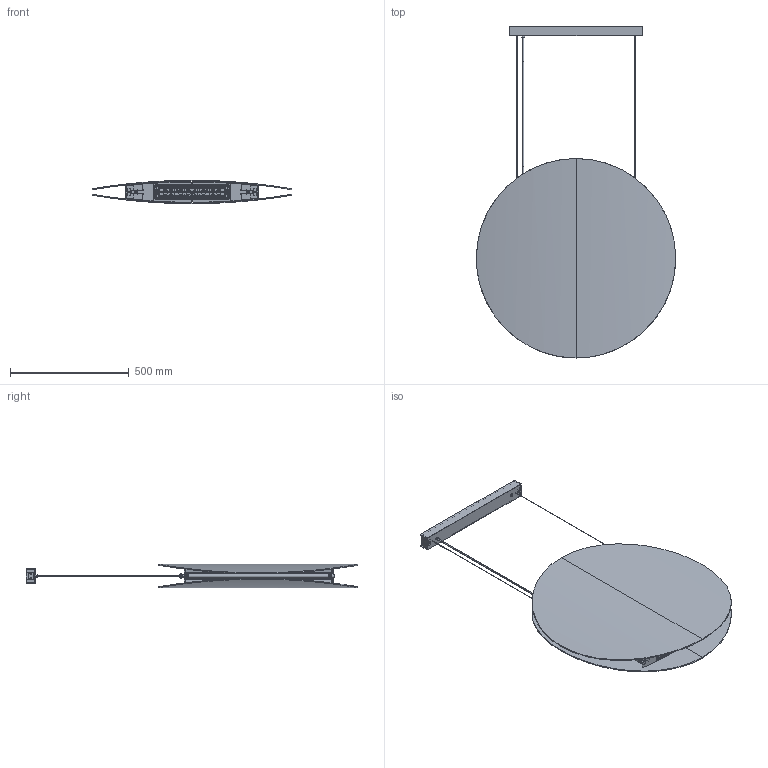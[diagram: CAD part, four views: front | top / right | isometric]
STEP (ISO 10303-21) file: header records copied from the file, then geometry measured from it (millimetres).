
FILE_DESCRIPTION (( 'STEP AP203' ), '1' );
FILE_NAME ('NOREN S-85 DOWN 116502xxyyy .STEP', '2022-08-29T07:52:37', ( '' ), ( '' ), 'SwSTEP 2.0', 'SolidWorks 2019', '' );
FILE_SCHEMA (( 'CONFIG_CONTROL_DESIGN' ));
Length unit declared in the file: millimetre
Products named in the file (33): 000-116-150; 000-918-106; 000-D913-44 NY; 000-116-251; 000-116-156; 000-116-220; 906-023 CABLE^NOREN S-85 DOWN 116502xxyyy ; 000-116-SUB TAPA FINAL DRIVERS; 000-909-099; 000-116-164; 000-D6798J-3.2; 000-909-101; 000-D7982-3.5X9.5N_M3.5X9.5mm; 000-116-252; 000-moss10091852; 000-D6798J-4.3; 000-116-304; 000-SUB116-07; 000-116-244; 000-SUB116-115CH; 000-920-007; NOREN S-85 DOWN 116502xxyyy ; 000-116-254; 000-116-101; 000-116-109; 000-116-283; 000-116-162; 000-920-003; 000-116-256; 000-116-280; 000-D965-410N; 000-116-219
Assembly tree (57 placements, depth 4):
  NOREN S-85 DOWN 116502xxyyy 
    000-D6798J-4.3
    000-D913-44 NY
    000-D965-410N  x4
    000-D7982-3.5X9.5N_M3.5X9.5mm  x4
    000-116-283  x2
    000-116-256  x2
    000-116-244  x2
    000-116-251
    000-116-252
    000-116-219
    000-116-254  x2
    000-116-220  x2
    000-920-007  x2
    000-116-280  x4
    000-SUB116-115CH
      000-116-101
      000-116-109  x2
      000-918-106
      000-116-304
    000-moss10091852
    906-023 CABLE^NOREN S-85 DOWN 116502xxyyy   x2
    000-SUB116-07
      000-116-156
      000-116-150
      000-116-219
      000-D913-44 NY
      000-116-SUB TAPA FINAL DRIVERS
        000-116-164
        000-116-162
        000-D965-410N
      000-116-SUB TAPA FINAL DRIVERS
        000-116-164
        000-116-162
        000-D965-410N
      000-920-003  x2
      000-D6798J-3.2
      000-moss10091852
      000-909-101
      000-909-099
Bounding box: 840 x 1398.52 x 98.38 mm (x, y, z)
Volume: 5456096 mm3; surface area: 3420782.4 mm2
Topology: 52 solids, 55 shells, 5552 faces, 14995 edges, 9602 vertices
Faces by surface type: plane 2137, cylinder 1966, bspline 1079, cone 154, torus 122, sphere 94
Full cylindrical faces by diameter (mm): 0.569 x1, 2.8 x1
Entity records: 245049 total; most frequent: CARTESIAN_POINT 154787, ORIENTED_EDGE 19912, DIRECTION 15038, EDGE_CURVE 9956, VERTEX_POINT 6446, VECTOR 5558, LINE 5558, AXIS2_PLACEMENT_3D 4740
